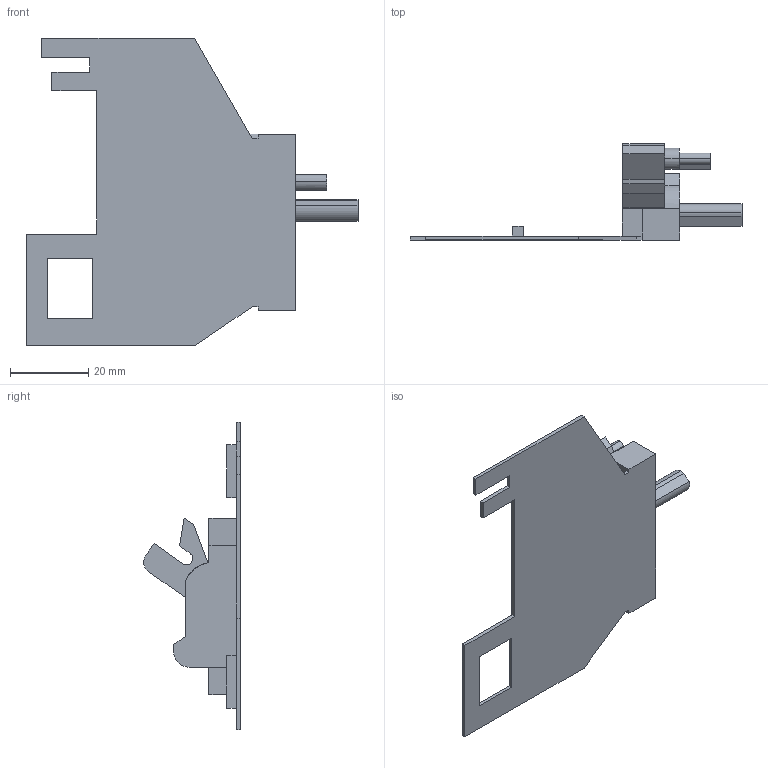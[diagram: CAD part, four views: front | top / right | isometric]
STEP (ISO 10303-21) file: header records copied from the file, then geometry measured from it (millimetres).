
FILE_DESCRIPTION (( 'STEP AP214' ), '1' );
FILE_NAME ('Synchronisationseinheit_DynaPro-Tipmatic_Links.step', '2013-01-30T15:07:21', ( 'Grass' ), ( '' ), 'SwSTEP 2.0', 'SolidWorks 2012', '' );
FILE_SCHEMA (( 'AUTOMOTIVE_DESIGN' ));
Length unit declared in the file: millimetre
Products named in the file (1): Synchronisationseinheit_DynaPro-Tipmatic_Links
Bounding box: 84.7 x 24.65 x 78.55 mm (x, y, z)
Volume: 12486.1 mm3; surface area: 10717.1 mm2
Topology: 1 solids, 1 shells, 72 faces, 198 edges, 132 vertices
Faces by surface type: plane 60, cylinder 12
Entity records: 2308 total; most frequent: CARTESIAN_POINT 403, ORIENTED_EDGE 396, DIRECTION 372, EDGE_CURVE 198, LINE 170, VECTOR 170, VERTEX_POINT 132, AXIS2_PLACEMENT_3D 101
